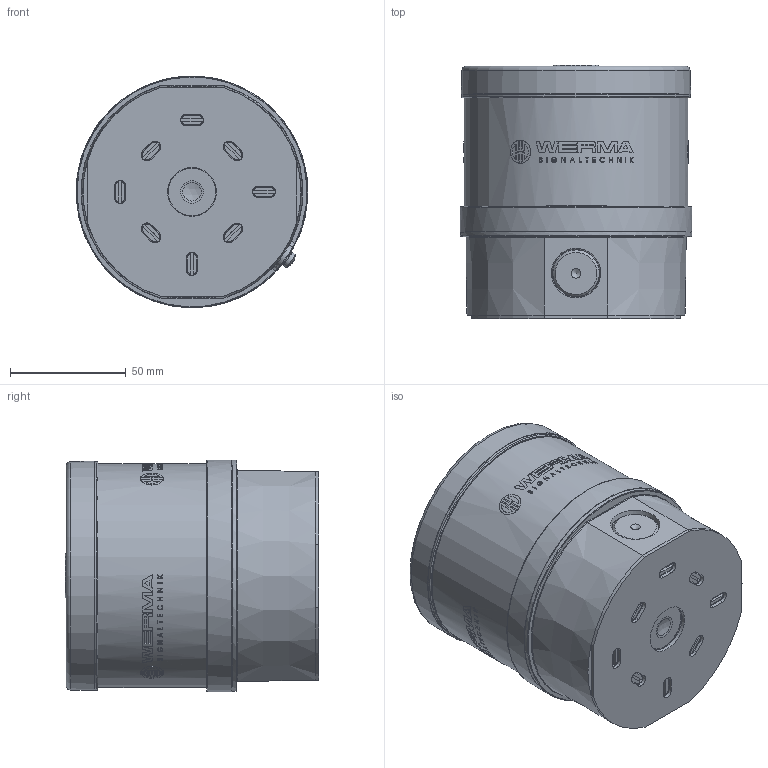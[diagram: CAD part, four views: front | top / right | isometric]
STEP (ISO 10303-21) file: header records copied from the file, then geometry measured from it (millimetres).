
FILE_DESCRIPTION(/* description */ ('Customer part'),/* implementation_level */ '2;1');
FILE_NAME(/* name */ 'C:\CEWorkDir\0050569C0EFC1ED8A298B521032F60C0\in\800000000311_PRT_000.step',/* time_stamp */ '2018-07-16T09:17:31+02:00',/* author */ ('IMPORT'),/* organization */ ('WERMA Signaltechnik GmbH+Co.KG'),/* preprocessor_version */ 'ST-DEVELOPER v17',/* originating_system */ 'Autodesk Inventor 2018',/* authorisation */ 'public');
FILE_SCHEMA (('AUTOMOTIVE_DESIGN { 1 0 10303 214 3 1 1 }'));
Length unit declared in the file: millimetre
Products named in the file (1): 800000000311
Bounding box: 99.91 x 109.41 x 99.91 mm (x, y, z)
Volume: 777840.3 mm3; surface area: 69877.9 mm2
Topology: 1 solids, 3 shells, 1608 faces, 4220 edges, 2755 vertices
Faces by surface type: plane 766, bspline 461, cylinder 193, cone 110, torus 74, sphere 4
Full cylindrical faces by diameter (mm): 3.5 x1, 6.9 x1, 20.5 x1, 21 x1, 21.1 x1, 96.598 x2
Entity records: 105102 total; most frequent: CARTESIAN_POINT 67888, ORIENTED_EDGE 8432, DIRECTION 5998, EDGE_CURVE 4216, VERTEX_POINT 2755, AXIS2_PLACEMENT_3D 2069, LINE 1860, VECTOR 1860
